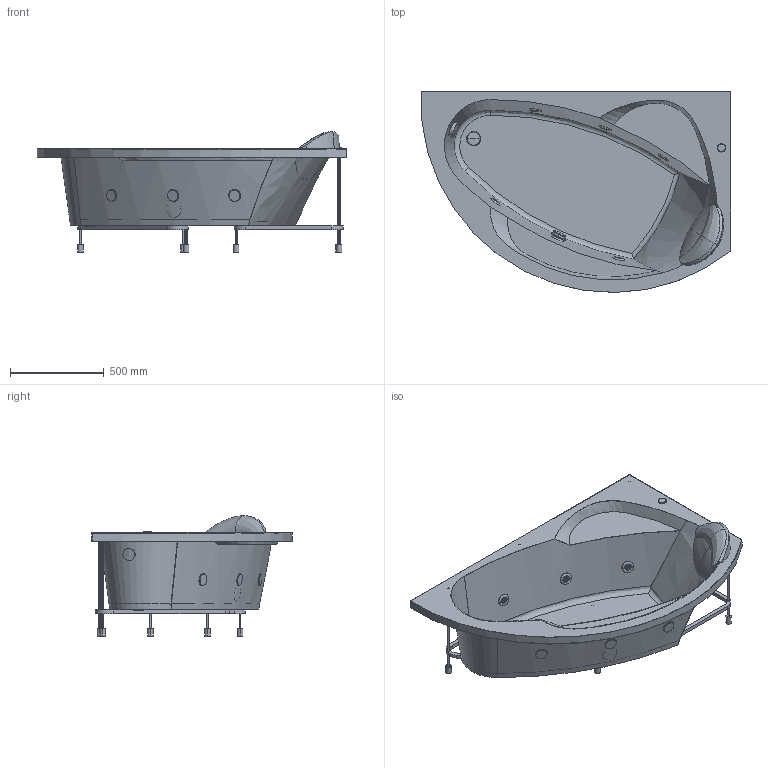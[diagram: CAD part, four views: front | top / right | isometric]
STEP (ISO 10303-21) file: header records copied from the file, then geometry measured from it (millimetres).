
FILE_DESCRIPTION(('STEP AP203'),'2;1');
FILE_NAME('VOG 3 16585 P D.stp','2015-07-24T16:35:06',(''),(''),'2014.1.117','THINKDESIGN','');
FILE_SCHEMA(('CONFIG_CONTROL_DESIGN'));
Bounding box: 1650 x 1069.88 x 640.5 mm (x, y, z)
Volume: 14251631.8 mm3; surface area: 6363190.9 mm2
Topology: 14 solids, 14 shells, 350 faces, 751 edges, 443 vertices
Faces by surface type: bspline 154, plane 98, cylinder 98
Entity records: 39960 total; most frequent: CARTESIAN_POINT 32907, ORIENTED_EDGE 1434, DIRECTION 1417, EDGE_CURVE 717, AXIS2_PLACEMENT_3D 602, VERTEX_POINT 443, CIRCLE 406, EDGE_LOOP 402
